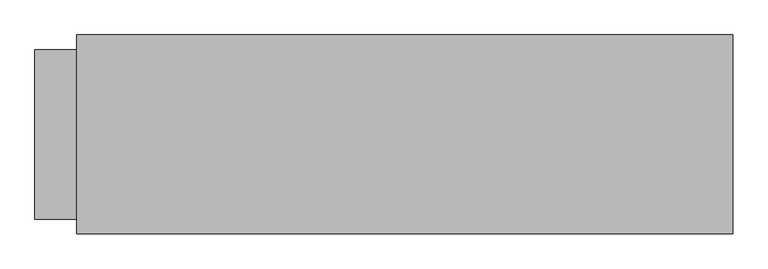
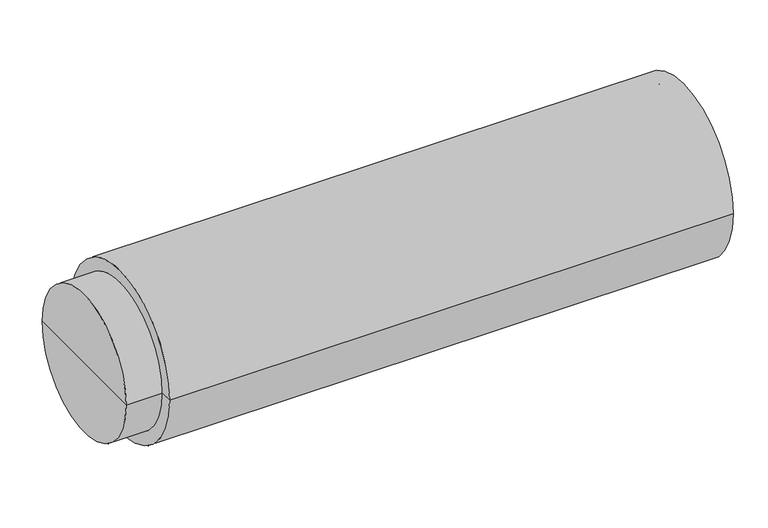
"""IFC4 building model written with IfcOpenShell, lengths in millimetres: duct segment geometry, NLRS_57_DUF_UN_duct EPP+_M&G : ø160 - ø200."""

from ifc_helpers import new_model, si_unit, frame, origin, place, context, project, spatial, polyline, circle_curve, source, transform, mapped, element, save
from ifc_brep_helpers import plane_surface, cylinder_surface, revolved_surface, advanced_brep


def duct_segment_d96b0232(model_context):
    return source(origin(), model_context, "Body", "AdvancedBrep", [
        advanced_brep(
        [(0.0, 0.0, 0.0), (0.0, 121.5, 0.0), (0.0, -121.5, 0.0), (940.0, -121.5, 0.0), (940.0, 121.5, 0.0), (940.0, 0.0, 0.0), (1000.0, -121.5, 0.0), (1000.0, 121.5, 0.0), (1000.0, -142.5, 0.0), (1000.0, 142.5, 0.0), (60.0, -142.5, 0.0), (60.0, 142.5, 0.0), (60.0, -121.5, 0.0), (60.0, 121.5, 0.0)],
        [
            (0, 1),
            (1, 2, circle_curve(frame((0.0, 0.0, 0.0), z_axis=(-1.0, 0.0, 0.0), x_axis=(0.0, 1.0, 0.0)), 121.5)),
            (2, 0),
            (2, 1, circle_curve(frame((0.0, 0.0, 0.0), z_axis=(-1.0, 0.0, 0.0), x_axis=(0.0, 1.0, 0.0)), 121.5)),
            (3, 4, circle_curve(frame((940.0, 0.0, 0.0), z_axis=(1.0, 0.0, 0.0), x_axis=(0.0, 1.0, 0.0)), 121.5)),
            (4, 5),
            (5, 3),
            (4, 3, circle_curve(frame((940.0, 0.0, 0.0), z_axis=(1.0, 0.0, 0.0), x_axis=(0.0, 1.0, 0.0)), 121.5)),
            (6, 7, circle_curve(frame((1000.0, 0.0, 0.0), z_axis=(1.0, 0.0, 0.0), x_axis=(0.0, 1.0, 0.0)), 121.5)),
            (7, 4),
            (3, 6),
            (7, 6, circle_curve(frame((1000.0, 0.0, 0.0), z_axis=(1.0, 0.0, 0.0), x_axis=(0.0, 1.0, 0.0)), 121.5)),
            (8, 9, circle_curve(frame((1000.0, 0.0, 0.0), z_axis=(1.0, 0.0, 0.0), x_axis=(0.0, 1.0, 0.0)), 142.5)),
            (9, 7),
            (6, 8),
            (9, 8, circle_curve(frame((1000.0, 0.0, 0.0), z_axis=(1.0, 0.0, 0.0), x_axis=(0.0, 1.0, 0.0)), 142.5)),
            (10, 11, circle_curve(frame((60.0, 0.0, 0.0), z_axis=(1.0, 0.0, 0.0), x_axis=(0.0, 1.0, 0.0)), 142.5)),
            (11, 9),
            (8, 10),
            (11, 10, circle_curve(frame((60.0, 0.0, 0.0), z_axis=(1.0, 0.0, 0.0), x_axis=(0.0, 1.0, 0.0)), 142.5)),
            (12, 13, circle_curve(frame((60.0, 0.0, 0.0), z_axis=(1.0, 0.0, 0.0), x_axis=(0.0, 1.0, 0.0)), 121.5)),
            (13, 11),
            (10, 12),
            (13, 12, circle_curve(frame((60.0, 0.0, 0.0), z_axis=(1.0, 0.0, 0.0), x_axis=(0.0, 1.0, 0.0)), 121.5)),
            (1, 13),
            (12, 2),
        ],
        [
            plane_surface(frame((0.0, 0.0, 0.0), z_axis=(-1.0, 0.0, 0.0), x_axis=(0.0, 1.0, 0.0))),
            plane_surface(frame((940.0, 0.0, 0.0), z_axis=(1.0, 0.0, 0.0), x_axis=(0.0, 1.0, 0.0))),
            revolved_surface(polyline([(940.0, 121.5, 0.0), (1000.0, 121.5, 0.0)]), (2000.0, 0.0, 0.0), (-1.0, 0.0, 0.0)),
            plane_surface(frame((1000.0, 0.0, 0.0), z_axis=(1.0, 0.0, 0.0), x_axis=(0.0, 1.0, 0.0))),
            cylinder_surface(frame((2000.0, 0.0, 0.0), z_axis=(-1.0, 0.0, 0.0), x_axis=(0.0, 1.0, 0.0)), 142.5),
            plane_surface(frame((60.0, 0.0, 0.0), z_axis=(-1.0, 0.0, 0.0), x_axis=(0.0, 1.0, 0.0))),
            cylinder_surface(frame((2000.0, 0.0, 0.0), z_axis=(-1.0, 0.0, 0.0), x_axis=(0.0, 1.0, 0.0)), 121.5),
        ],
        [
            (0, [[1, 2, 3]]),
            (0, [[-3, 4, -1]]),
            (1, [[5, 6, 7]]),
            (1, [[8, -7, -6]]),
            (2, [[9, 10, -5, 11]]),
            (2, [[12, -11, -8, -10]]),
            (3, [[13, 14, -9, 15]]),
            (3, [[16, -15, -12, -14]]),
            (4, [[17, 18, -13, 19]]),
            (4, [[20, -19, -16, -18]]),
            (5, [[21, 22, -17, 23]]),
            (5, [[24, -23, -20, -22]]),
            (6, [[-2, 25, -21, 26]]),
            (6, [[-4, -26, -24, -25]]),
        ],
    ),
    ])


if __name__ == "__main__":
    model = new_model("IFC4")
    model_context = context("Model", 3, world=origin())
    ifc_project = project(units=[si_unit("LENGTHUNIT", "METRE", prefix="MILLI")], contexts=[model_context])
    site = spatial("IfcSite", under=ifc_project)
    building = spatial("IfcBuilding", under=site)
    placement = place(None, origin())
    duct_segment_shape = duct_segment_d96b0232(model_context)
    element("IfcDuctSegment", 1, ObjectType="NLRS_57_DUF_UN_duct EPP+_M&G : ø160 - ø200", at=placement, inside=building, context=model_context, shape_type="MappedRepresentation", body=[
        mapped(duct_segment_shape, transform((0.0, 0.0, 0.0), x_axis=(1.0, 0.0, 0.0), y_axis=(0.0, 1.0, 0.0), z_axis=(0.0, 0.0, 1.0))),
    ])
    save(model, "model.ifc")
